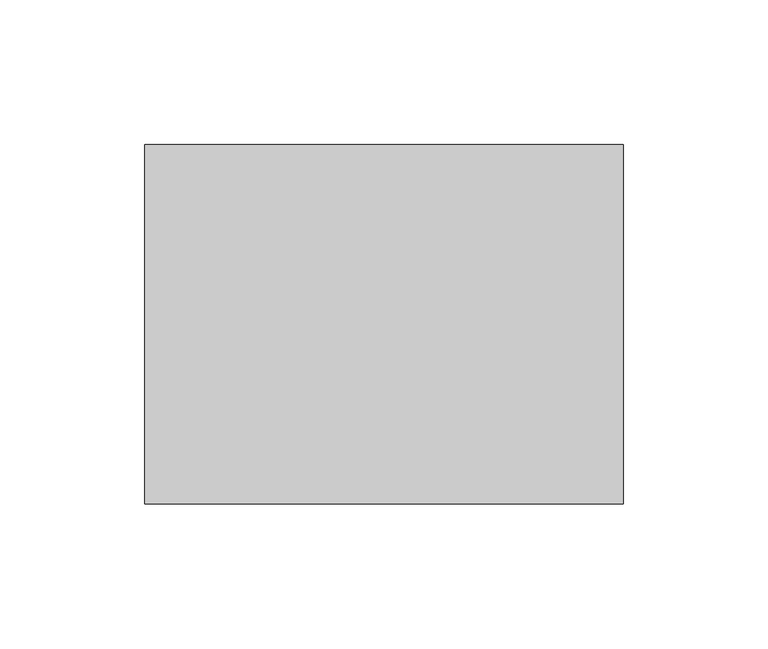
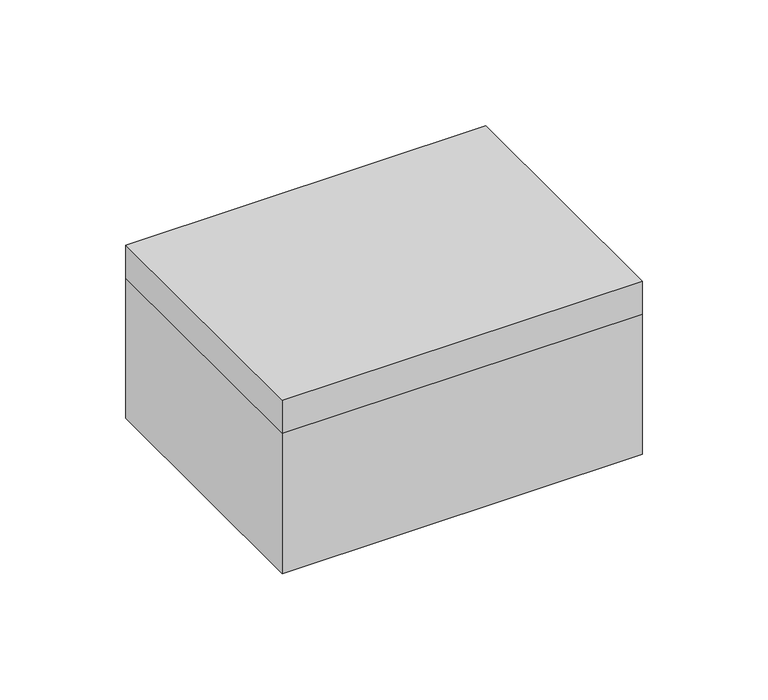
"""IFC4 building model written with IfcOpenShell, lengths in millimetres: cable carrier fitting geometry."""

from ifc_helpers import new_model, si_unit, origin, place, context, project, spatial, faceted_brep, source, transform, mapped, element, save


def cable_carrier_fitting_77eaddde(model_context):
    return source(origin(), model_context, "Body", "Brep", [
        faceted_brep([(82.5, 62.0, 84.0), (-82.5, 62.0, 84.0), (-82.5, -62.0, 84.0), (82.5, -62.0, 84.0), (-80.5, -60.0, 82.0), (-80.5, 60.0, 82.0), (80.5, 60.0, 82.0), (80.5, -60.0, 82.0), (82.5, 62.0, 68.0), (82.5, -62.0, 68.0), (-82.5, -62.0, 68.0), (-82.5, 62.0, 68.0), (-80.5, -60.0, 68.0), (80.5, -60.0, 68.0), (80.5, 60.0, 68.0), (-80.5, 60.0, 68.0)], [[[0, 1, 2, 3]], [[4, 5, 6, 7]], [[8, 9, 10, 11], [12, 13, 14, 15]], [[1, 0, 8, 11]], [[2, 1, 11, 10]], [[3, 2, 10, 9]], [[0, 3, 9, 8]], [[12, 15, 5, 4]], [[15, 14, 6, 5]], [[14, 13, 7, 6]], [[13, 12, 4, 7]]]),
        faceted_brep([(-80.5, -60.0, 2.0), (80.5, -60.0, 2.0), (80.5, 60.0, 2.0), (-80.5, 60.0, 2.0), (82.5, 62.0, 0.0), (82.5, -62.0, 0.0), (-82.5, -62.0, 0.0), (-82.5, 62.0, 0.0), (82.5, 62.0, 68.0), (-82.5, 62.0, 68.0), (-82.5, -62.0, 68.0), (82.5, -62.0, 68.0), (80.5, -60.0, 68.0), (-80.5, -60.0, 68.0), (-80.5, 60.0, 68.0), (80.5, 60.0, 68.0)], [[[0, 1, 2, 3]], [[4, 5, 6, 7]], [[8, 9, 10, 11], [12, 13, 14, 15]], [[9, 8, 4, 7]], [[10, 9, 7, 6]], [[11, 10, 6, 5]], [[8, 11, 5, 4]], [[13, 12, 1, 0]], [[14, 13, 0, 3]], [[15, 14, 3, 2]], [[12, 15, 2, 1]]]),
    ])


if __name__ == "__main__":
    model = new_model("IFC4")
    model_context = context("Model", 3, world=origin())
    ifc_project = project(units=[si_unit("LENGTHUNIT", "METRE", prefix="MILLI")], contexts=[model_context])
    site = spatial("IfcSite", under=ifc_project)
    building = spatial("IfcBuilding", under=site)
    placement = place(None, origin())
    cable_carrier_fitting_shape = cable_carrier_fitting_77eaddde(model_context)
    element("IfcCableCarrierFitting", 1, at=placement, inside=building, context=model_context, shape_type="MappedRepresentation", body=[
        mapped(cable_carrier_fitting_shape, transform((0.0, 0.0, 0.0), x_axis=(1.0, 0.0, 0.0), y_axis=(0.0, 1.0, 0.0), z_axis=(0.0, 0.0, 1.0))),
    ])
    save(model, "model.ifc")
